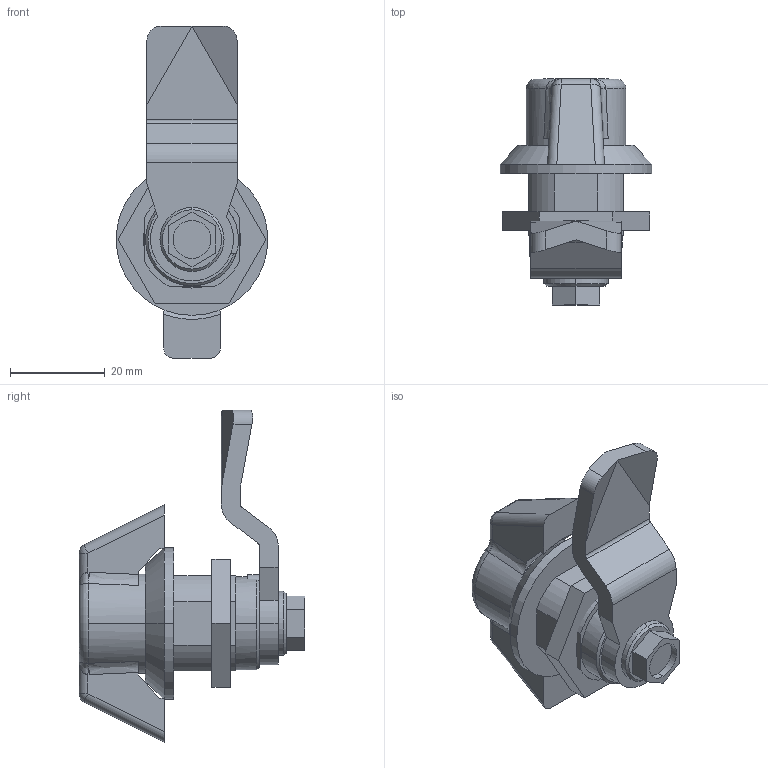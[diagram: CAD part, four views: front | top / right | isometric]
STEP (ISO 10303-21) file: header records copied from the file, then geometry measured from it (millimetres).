
FILE_DESCRIPTION (( 'STEP AP214' ), '1' );
FILE_NAME ('115-SKN-10-A4.step', '2023-07-12T12:42:00', ( '' ), ( '' ), 'SwSTEP 2.0', 'SolidWorks 2022', '' );
FILE_SCHEMA (( 'AUTOMOTIVE_DESIGN' ));
Length unit declared in the file: millimetre
Products named in the file (5): WB115_Gehäuse^WB115_BE_32; 115-SKN-10-A4; WB115_Betätigungswelle_Hebel^WB115_BE_SKN; WB115_Gegenmutter^WB115_BE; WB115_Zunge^WB115_BE_10
Assembly tree (4 placements, depth 2):
  115-SKN-10-A4
    WB115_Gehäuse^WB115_BE_32
    WB115_Betätigungswelle_Hebel^WB115_BE_SKN
    WB115_Zunge^WB115_BE_10
    WB115_Gegenmutter^WB115_BE
Bounding box: 32 x 47.65 x 70 mm (x, y, z)
Volume: 23798.6 mm3; surface area: 12567.3 mm2
Topology: 4 solids, 4 shells, 159 faces, 393 edges, 248 vertices
Faces by surface type: plane 76, cylinder 57, bspline 12, cone 7, sphere 5, torus 2
Entity records: 5778 total; most frequent: CARTESIAN_POINT 1353, DIRECTION 779, ORIENTED_EDGE 776, EDGE_CURVE 388, AXIS2_PLACEMENT_3D 286, VERTEX_POINT 248, LINE 207, VECTOR 207
